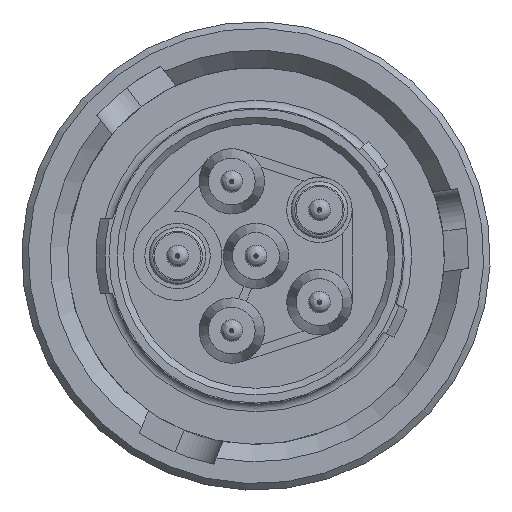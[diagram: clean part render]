
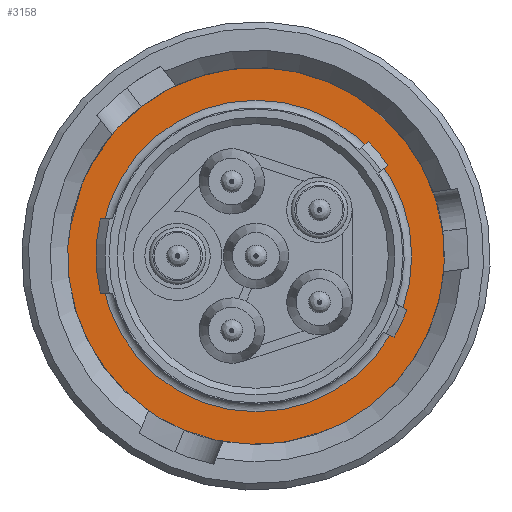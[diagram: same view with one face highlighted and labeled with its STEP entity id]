
A CAD part, left-side view. The second image highlights one B-rep face of the part: STEP entity #3158.
In plain terms, the highlighted planar face has unit normal (-1, 0, 0).
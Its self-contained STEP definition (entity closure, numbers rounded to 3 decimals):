
#32=FACE_BOUND('',#595,.T.);
#83=PLANE('',#3556);
#384=FACE_OUTER_BOUND('',#594,.T.);
#594=EDGE_LOOP('',(#2749));
#595=EDGE_LOOP('',(#2750));
#1120=CIRCLE('',#3372,3.575);
#1171=CIRCLE('',#3444,4.325);
#1326=VERTEX_POINT('',#5030);
#1421=VERTEX_POINT('',#5557);
#1660=EDGE_CURVE('',#1326,#1326,#1120,.T.);
#1775=EDGE_CURVE('',#1421,#1421,#1171,.T.);
#2749=ORIENTED_EDGE('',*,*,#1775,.F.);
#2750=ORIENTED_EDGE('',*,*,#1660,.T.);
#3158=ADVANCED_FACE('',(#384,#32),#83,.F.);
#3372=AXIS2_PLACEMENT_3D('',#5031,#3959,#3960);
#3444=AXIS2_PLACEMENT_3D('',#5559,#4139,#4140);
#3556=AXIS2_PLACEMENT_3D('',#6242,#4445,#4446);
#3959=DIRECTION('center_axis',(1.,0.,0.));
#3960=DIRECTION('ref_axis',(0.,0.,-1.));
#4139=DIRECTION('center_axis',(1.,0.,0.));
#4140=DIRECTION('ref_axis',(0.,0.,-1.));
#4445=DIRECTION('center_axis',(1.,0.,0.));
#4446=DIRECTION('ref_axis',(0.,0.,-1.));
#5030=CARTESIAN_POINT('',(6.2,0.,3.575));
#5031=CARTESIAN_POINT('Origin',(6.2,0.,0.));
#5557=CARTESIAN_POINT('',(6.2,3.997,1.651));
#5559=CARTESIAN_POINT('Origin',(6.2,0.,0.));
#6242=CARTESIAN_POINT('Origin',(6.2,0.,0.));
